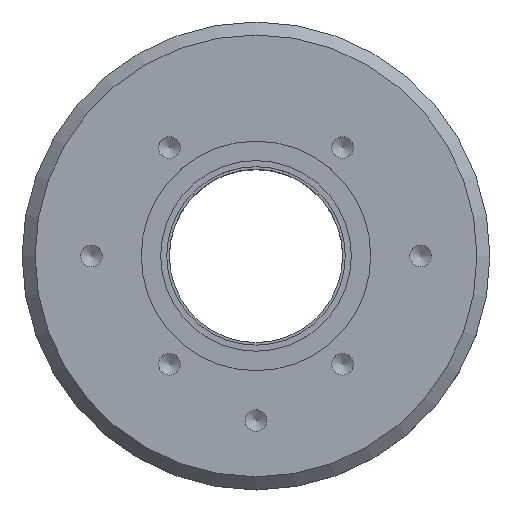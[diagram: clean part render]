
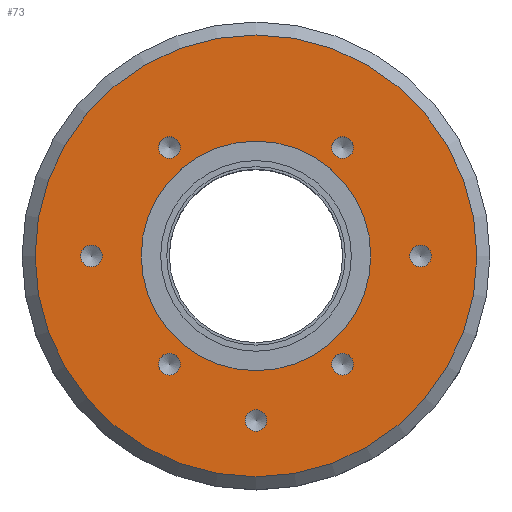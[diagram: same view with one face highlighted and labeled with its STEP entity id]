
A CAD part, top view. The second image highlights one B-rep face of the part: STEP entity #73.
In plain terms, the highlighted planar face has unit normal (0, 0, 1).
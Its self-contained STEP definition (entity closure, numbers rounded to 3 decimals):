
#65=PLANE('',#503);
#73=ADVANCED_FACE('',(#130,#131,#132,#133,#134,#135,#136,#137,#138),#65,
 .T.);
#130=FACE_BOUND('',#216,.T.);
#131=FACE_BOUND('',#217,.T.);
#132=FACE_BOUND('',#218,.T.);
#133=FACE_BOUND('',#219,.T.);
#134=FACE_BOUND('',#220,.T.);
#135=FACE_BOUND('',#221,.T.);
#136=FACE_BOUND('',#222,.T.);
#137=FACE_BOUND('',#223,.T.);
#138=FACE_BOUND('',#224,.T.);
#216=EDGE_LOOP('',(#292));
#217=EDGE_LOOP('',(#293));
#218=EDGE_LOOP('',(#294));
#219=EDGE_LOOP('',(#295));
#220=EDGE_LOOP('',(#296));
#221=EDGE_LOOP('',(#297));
#222=EDGE_LOOP('',(#298));
#223=EDGE_LOOP('',(#299));
#224=EDGE_LOOP('',(#300));
#292=ORIENTED_EDGE('',*,*,#416,.T.);
#293=ORIENTED_EDGE('',*,*,#417,.T.);
#294=ORIENTED_EDGE('',*,*,#418,.T.);
#295=ORIENTED_EDGE('',*,*,#419,.T.);
#296=ORIENTED_EDGE('',*,*,#420,.T.);
#297=ORIENTED_EDGE('',*,*,#421,.T.);
#298=ORIENTED_EDGE('',*,*,#422,.T.);
#299=ORIENTED_EDGE('',*,*,#423,.T.);
#300=ORIENTED_EDGE('',*,*,#424,.F.);
#368=VERTEX_POINT('',#728);
#369=VERTEX_POINT('',#730);
#370=VERTEX_POINT('',#732);
#371=VERTEX_POINT('',#734);
#372=VERTEX_POINT('',#736);
#373=VERTEX_POINT('',#738);
#374=VERTEX_POINT('',#740);
#375=VERTEX_POINT('',#742);
#376=VERTEX_POINT('',#744);
#416=EDGE_CURVE('',#368,#368,#454,.T.);
#417=EDGE_CURVE('',#369,#369,#455,.T.);
#418=EDGE_CURVE('',#370,#370,#456,.T.);
#419=EDGE_CURVE('',#371,#371,#457,.T.);
#420=EDGE_CURVE('',#372,#372,#458,.T.);
#421=EDGE_CURVE('',#373,#373,#459,.T.);
#422=EDGE_CURVE('',#374,#374,#460,.T.);
#423=EDGE_CURVE('',#375,#375,#461,.T.);
#424=EDGE_CURVE('',#376,#376,#462,.T.);
#454=CIRCLE('',#494,2.5);
#455=CIRCLE('',#495,2.5);
#456=CIRCLE('',#496,2.5);
#457=CIRCLE('',#497,51.);
#458=CIRCLE('',#498,2.5);
#459=CIRCLE('',#499,2.5);
#460=CIRCLE('',#500,2.5);
#461=CIRCLE('',#501,2.5);
#462=CIRCLE('',#502,26.5);
#494=AXIS2_PLACEMENT_3D('',#727,#575,#576);
#495=AXIS2_PLACEMENT_3D('',#729,#577,#578);
#496=AXIS2_PLACEMENT_3D('',#731,#579,#580);
#497=AXIS2_PLACEMENT_3D('',#733,#581,#582);
#498=AXIS2_PLACEMENT_3D('',#735,#583,#584);
#499=AXIS2_PLACEMENT_3D('',#737,#585,#586);
#500=AXIS2_PLACEMENT_3D('',#739,#587,#588);
#501=AXIS2_PLACEMENT_3D('',#741,#589,#590);
#502=AXIS2_PLACEMENT_3D('',#743,#591,#592);
#503=AXIS2_PLACEMENT_3D('',#745,#593,#594);
#575=DIRECTION('',(0.,0.,-1.));
#576=DIRECTION('',(-1.,0.,0.));
#577=DIRECTION('',(0.,0.,-1.));
#578=DIRECTION('',(-1.,0.,0.));
#579=DIRECTION('',(0.,0.,-1.));
#580=DIRECTION('',(0.,1.,0.));
#581=DIRECTION('',(0.,0.,1.));
#582=DIRECTION('',(0.,-1.,0.));
#583=DIRECTION('',(0.,0.,-1.));
#584=DIRECTION('',(0.,1.,0.));
#585=DIRECTION('',(0.,0.,-1.));
#586=DIRECTION('',(0.,1.,0.));
#587=DIRECTION('',(0.,0.,-1.));
#588=DIRECTION('',(0.,1.,0.));
#589=DIRECTION('',(0.,0.,-1.));
#590=DIRECTION('',(0.,1.,0.));
#591=DIRECTION('',(0.,0.,1.));
#592=DIRECTION('',(1.,0.,0.));
#593=DIRECTION('',(0.,0.,1.));
#594=DIRECTION('',(0.,-1.,0.));
#727=CARTESIAN_POINT('',(38.,0.,70.));
#728=CARTESIAN_POINT('',(35.5,0.,70.));
#729=CARTESIAN_POINT('',(-38.,0.,70.));
#730=CARTESIAN_POINT('',(-40.5,0.,70.));
#731=CARTESIAN_POINT('',(0.,-38.,70.));
#732=CARTESIAN_POINT('',(0.,-35.5,70.));
#733=CARTESIAN_POINT('',(0.,0.,70.));
#734=CARTESIAN_POINT('',(0.,-51.,70.));
#735=CARTESIAN_POINT('',(-20.,25.,70.));
#736=CARTESIAN_POINT('',(-20.,27.5,70.));
#737=CARTESIAN_POINT('',(20.,25.,70.));
#738=CARTESIAN_POINT('',(20.,27.5,70.));
#739=CARTESIAN_POINT('',(20.,-25.,70.));
#740=CARTESIAN_POINT('',(20.,-22.5,70.));
#741=CARTESIAN_POINT('',(-20.,-25.,70.));
#742=CARTESIAN_POINT('',(-20.,-22.5,70.));
#743=CARTESIAN_POINT('',(0.,0.,70.));
#744=CARTESIAN_POINT('',(26.5,0.,70.));
#745=CARTESIAN_POINT('',(0.,54.,70.));
